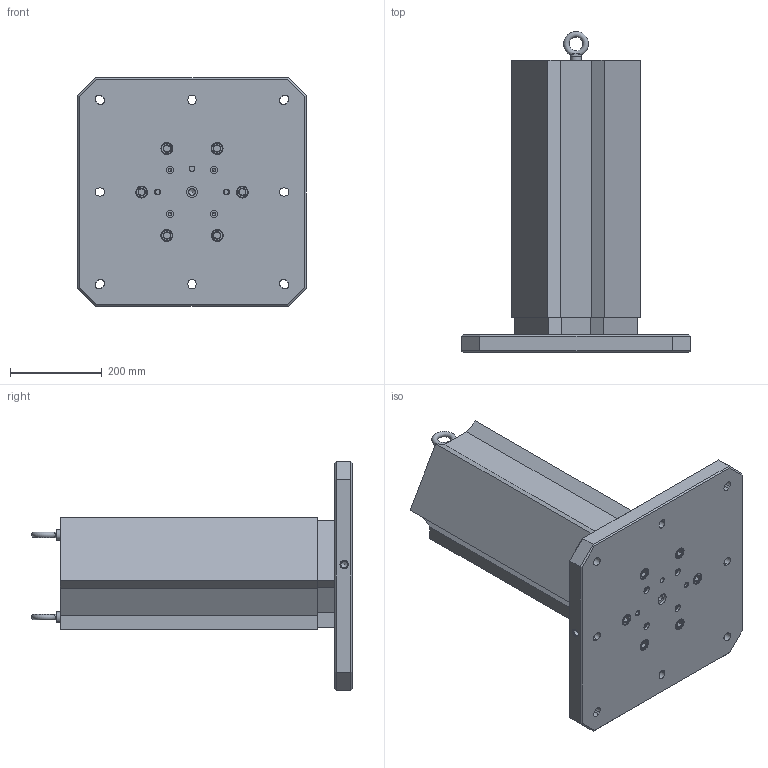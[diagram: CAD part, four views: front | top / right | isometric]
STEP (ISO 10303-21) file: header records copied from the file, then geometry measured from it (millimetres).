
FILE_DESCRIPTION (( 'STEP AP214' ), '1' );
FILE_NAME ('MTA-5003U-638_WEBSITE.step', '2025-08-11T12:53:40', ( '' ), ( '' ), 'SwSTEP 2.0', 'SolidWorks 2024', '' );
FILE_SCHEMA (( 'AUTOMOTIVE_DESIGN' ));
Length unit declared in the file: millimetre
Products named in the file (5): MTA-5003U-638_WEBSITE; HW.76172_dev_WEBSITE; M12X24MM.EB (McM 3040T15)_WEBSITE_3040T15; RL96-14TC_dev_WEBSITE; MTA-5003U-638_WEBSITE_MACHINABLE TOWER
Assembly tree (8 placements, depth 2):
  MTA-5003U-638_WEBSITE
    MTA-5003U-638_WEBSITE_MACHINABLE TOWER
    RL96-14TC_dev_WEBSITE
    HW.76172_dev_WEBSITE  x4
    M12X24MM.EB (McM 3040T15)_WEBSITE_3040T15  x2
Bounding box: 500 x 700.88 x 500 mm (x, y, z)
Volume: 28147796 mm3; surface area: 1591779.1 mm2
Topology: 15 solids, 15 shells, 726 faces, 1725 edges, 1083 vertices
Faces by surface type: plane 290, cylinder 281, cone 141, bspline 12, torus 2
Full cylindrical faces by diameter (mm): 5 x4, 6 x4, 6.6 x4, 8.5 x4, 10 x4, 10.025 x4, 10.2 x4, 11 x4, 12 x3, 14 x12, 16 x132, 16.02 x4, 17.5 x12, 23 x2, 24 x6, 25.025 x1, 26 x6, 139.7 x1
Entity records: 31899 total; most frequent: CARTESIAN_POINT 20009, DIRECTION 2358, ORIENTED_EDGE 2030, EDGE_CURVE 1015, AXIS2_PLACEMENT_3D 924, EDGE_LOOP 774, VERTEX_POINT 707, FACE_OUTER_BOUND 606
